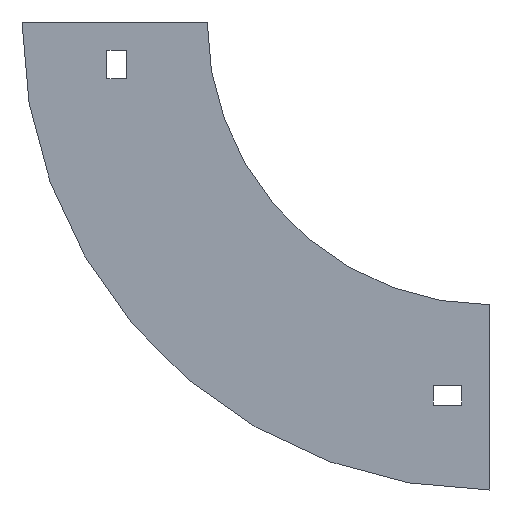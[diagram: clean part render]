
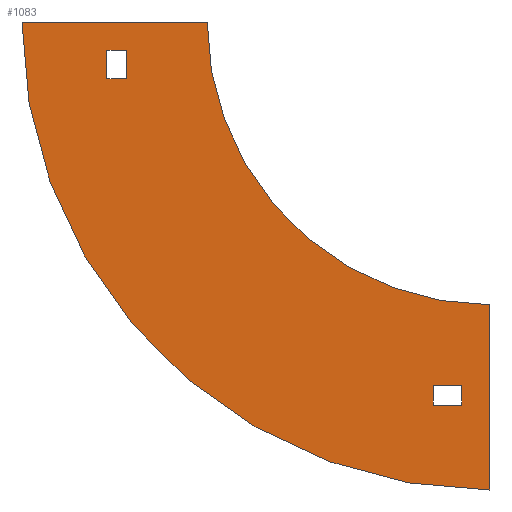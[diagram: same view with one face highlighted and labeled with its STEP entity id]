
A CAD part, left-side view. The second image highlights one B-rep face of the part: STEP entity #1083.
In plain terms, the highlighted planar face has unit normal (-1, 0, 0).
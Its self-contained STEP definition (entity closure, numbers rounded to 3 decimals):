
#1 = CARTESIAN_POINT ( 'NONE',  ( -252., -100., -100. ) ) ;
#2 = ORIENTED_EDGE ( 'NONE', *, *, #510, .F. ) ;
#15 = CARTESIAN_POINT ( 'NONE',  ( -252., -90., -135.5 ) ) ;
#16 = CARTESIAN_POINT ( 'NONE',  ( -252., -90., -128.5 ) ) ;
#17 = DIRECTION ( 'NONE',  ( 0., 0., -1. ) ) ;
#19 = ORIENTED_EDGE ( 'NONE', *, *, #811, .T. ) ;
#39 = VERTEX_POINT ( 'NONE', #16 ) ;
#57 = CIRCLE ( 'NONE', #344, 100. ) ;
#63 = CARTESIAN_POINT ( 'NONE',  ( -252., 0., 0. ) ) ;
#67 = DIRECTION ( 'NONE',  ( 1., 0., 0. ) ) ;
#75 = ORIENTED_EDGE ( 'NONE', *, *, #232, .T. ) ;
#84 = ORIENTED_EDGE ( 'NONE', *, *, #415, .F. ) ;
#85 = LINE ( 'NONE', #155, #125 ) ;
#102 = CARTESIAN_POINT ( 'NONE',  ( -252., 28.5, -10. ) ) ;
#110 = LINE ( 'NONE', #102, #851 ) ;
#112 = ORIENTED_EDGE ( 'NONE', *, *, #968, .F. ) ;
#125 = VECTOR ( 'NONE', #708, 1000. ) ;
#133 = CARTESIAN_POINT ( 'NONE',  ( -252., -80., -128.5 ) ) ;
#145 = VECTOR ( 'NONE', #931, 1000. ) ;
#146 = CIRCLE ( 'NONE', #786, 165.5 ) ;
#148 = VECTOR ( 'NONE', #293, 1000. ) ;
#150 = CARTESIAN_POINT ( 'NONE',  ( -252., 28.5, -10. ) ) ;
#155 = CARTESIAN_POINT ( 'NONE',  ( -252., -90., -135.5 ) ) ;
#157 = VERTEX_POINT ( 'NONE', #133 ) ;
#161 = AXIS2_PLACEMENT_3D ( 'NONE', #719, #894, #478 ) ;
#219 = DIRECTION ( 'NONE',  ( 0., 0., 1. ) ) ;
#229 = LINE ( 'NONE', #577, #145 ) ;
#232 = EDGE_CURVE ( 'NONE', #1042, #745, #229, .T. ) ;
#273 = FACE_OUTER_BOUND ( 'NONE', #305, .T. ) ;
#293 = DIRECTION ( 'NONE',  ( 0., -1., 0. ) ) ;
#296 = CARTESIAN_POINT ( 'NONE',  ( -252., -80., -135.5 ) ) ;
#305 = EDGE_LOOP ( 'NONE', ( #888, #815, #1029, #84 ) ) ;
#311 = DIRECTION ( 'NONE',  ( 0., 1., 0. ) ) ;
#321 = ORIENTED_EDGE ( 'NONE', *, *, #962, .T. ) ;
#331 = VERTEX_POINT ( 'NONE', #1 ) ;
#344 = AXIS2_PLACEMENT_3D ( 'NONE', #740, #716, #978 ) ;
#355 = LINE ( 'NONE', #412, #694 ) ;
#359 = DIRECTION ( 'NONE',  ( 0., 0., -1. ) ) ;
#371 = LINE ( 'NONE', #1003, #588 ) ;
#380 = VECTOR ( 'NONE', #984, 1000. ) ;
#382 = VECTOR ( 'NONE', #359, 1000. ) ;
#393 = VERTEX_POINT ( 'NONE', #150 ) ;
#399 = CARTESIAN_POINT ( 'NONE',  ( -252., 35.5, -20. ) ) ;
#412 = CARTESIAN_POINT ( 'NONE',  ( -252., -100., -100. ) ) ;
#414 = DIRECTION ( 'NONE',  ( 0., 0., 1. ) ) ;
#415 = EDGE_CURVE ( 'NONE', #331, #736, #355, .T. ) ;
#460 = VERTEX_POINT ( 'NONE', #646 ) ;
#477 = VECTOR ( 'NONE', #219, 1000. ) ;
#478 = DIRECTION ( 'NONE',  ( 0., 0., 1. ) ) ;
#510 = EDGE_CURVE ( 'NONE', #39, #157, #627, .T. ) ;
#539 = DIRECTION ( 'NONE',  ( 0., -1., 0. ) ) ;
#541 = CARTESIAN_POINT ( 'NONE',  ( -252., -90., -128.5 ) ) ;
#577 = CARTESIAN_POINT ( 'NONE',  ( -252., 35.5, -10. ) ) ;
#581 = VERTEX_POINT ( 'NONE', #63 ) ;
#588 = VECTOR ( 'NONE', #539, 1000. ) ;
#614 = CARTESIAN_POINT ( 'NONE',  ( -252., 65.5, 0. ) ) ;
#616 = VERTEX_POINT ( 'NONE', #857 ) ;
#625 = EDGE_CURVE ( 'NONE', #736, #739, #146, .T. ) ;
#627 = LINE ( 'NONE', #541, #380 ) ;
#646 = CARTESIAN_POINT ( 'NONE',  ( -252., 28.5, -20. ) ) ;
#694 = VECTOR ( 'NONE', #768, 1000. ) ;
#708 = DIRECTION ( 'NONE',  ( 0., -1., 0. ) ) ;
#716 = DIRECTION ( 'NONE',  ( -1., 0., 0. ) ) ;
#719 = CARTESIAN_POINT ( 'NONE',  ( -252., -100., 0. ) ) ;
#732 = LINE ( 'NONE', #296, #382 ) ;
#736 = VERTEX_POINT ( 'NONE', #877 ) ;
#739 = VERTEX_POINT ( 'NONE', #614 ) ;
#740 = CARTESIAN_POINT ( 'NONE',  ( -252., -100., 0. ) ) ;
#745 = VERTEX_POINT ( 'NONE', #964 ) ;
#750 = EDGE_CURVE ( 'NONE', #616, #1054, #85, .T. ) ;
#764 = EDGE_LOOP ( 'NONE', ( #1123, #19, #321, #75 ) ) ;
#768 = DIRECTION ( 'NONE',  ( 0., 0., -1. ) ) ;
#786 = AXIS2_PLACEMENT_3D ( 'NONE', #843, #67, #414 ) ;
#803 = LINE ( 'NONE', #1001, #148 ) ;
#811 = EDGE_CURVE ( 'NONE', #393, #460, #110, .T. ) ;
#815 = ORIENTED_EDGE ( 'NONE', *, *, #1125, .F. ) ;
#843 = CARTESIAN_POINT ( 'NONE',  ( -252., -100., 0. ) ) ;
#851 = VECTOR ( 'NONE', #17, 1000. ) ;
#857 = CARTESIAN_POINT ( 'NONE',  ( -252., -80., -135.5 ) ) ;
#877 = CARTESIAN_POINT ( 'NONE',  ( -252., -100., -165.5 ) ) ;
#885 = EDGE_CURVE ( 'NONE', #157, #616, #732, .T. ) ;
#888 = ORIENTED_EDGE ( 'NONE', *, *, #928, .F. ) ;
#893 = ORIENTED_EDGE ( 'NONE', *, *, #750, .F. ) ;
#894 = DIRECTION ( 'NONE',  ( -1., 0., 0. ) ) ;
#900 = PLANE ( 'NONE',  #161 ) ;
#906 = EDGE_CURVE ( 'NONE', #745, #393, #371, .T. ) ;
#912 = FACE_BOUND ( 'NONE', #764, .T. ) ;
#921 = LINE ( 'NONE', #399, #996 ) ;
#927 = CARTESIAN_POINT ( 'NONE',  ( -252., -90., -135.5 ) ) ;
#928 = EDGE_CURVE ( 'NONE', #581, #331, #57, .T. ) ;
#931 = DIRECTION ( 'NONE',  ( 0., 0., 1. ) ) ;
#932 = ORIENTED_EDGE ( 'NONE', *, *, #885, .F. ) ;
#962 = EDGE_CURVE ( 'NONE', #460, #1042, #921, .T. ) ;
#964 = CARTESIAN_POINT ( 'NONE',  ( -252., 35.5, -10. ) ) ;
#968 = EDGE_CURVE ( 'NONE', #1054, #39, #1103, .T. ) ;
#978 = DIRECTION ( 'NONE',  ( 0., 0., 1. ) ) ;
#984 = DIRECTION ( 'NONE',  ( 0., 1., 0. ) ) ;
#986 = CARTESIAN_POINT ( 'NONE',  ( -252., 35.5, -20. ) ) ;
#996 = VECTOR ( 'NONE', #311, 1000. ) ;
#1001 = CARTESIAN_POINT ( 'NONE',  ( -252., 65.5, 0. ) ) ;
#1003 = CARTESIAN_POINT ( 'NONE',  ( -252., 35.5, -10. ) ) ;
#1029 = ORIENTED_EDGE ( 'NONE', *, *, #625, .F. ) ;
#1042 = VERTEX_POINT ( 'NONE', #986 ) ;
#1054 = VERTEX_POINT ( 'NONE', #15 ) ;
#1074 = FACE_BOUND ( 'NONE', #1105, .T. ) ;
#1083 = ADVANCED_FACE ( 'NONE', ( #912, #273, #1074 ), #900, .T. ) ;
#1103 = LINE ( 'NONE', #927, #477 ) ;
#1105 = EDGE_LOOP ( 'NONE', ( #2, #112, #893, #932 ) ) ;
#1123 = ORIENTED_EDGE ( 'NONE', *, *, #906, .T. ) ;
#1125 = EDGE_CURVE ( 'NONE', #739, #581, #803, .T. ) ;
